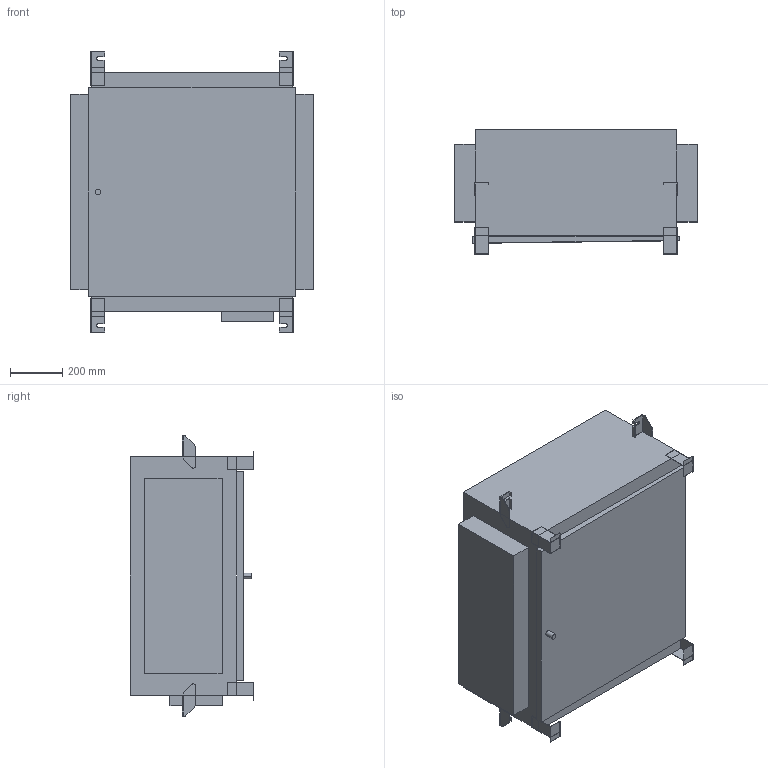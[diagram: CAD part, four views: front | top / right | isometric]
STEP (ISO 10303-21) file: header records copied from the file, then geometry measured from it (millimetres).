
FILE_DESCRIPTION (( 'STEP AP214' ), '1' );
FILE_NAME ('BIS-601モックアップデータ.STEP', '2021-08-30T04:28:05', ( '' ), ( '' ), 'SwSTEP 2.0', 'SolidWorks 2020', '' );
FILE_SCHEMA (( 'AUTOMOTIVE_DESIGN' ));
Length unit declared in the file: millimetre
Products named in the file (1): BIS-601儌僢僋傾僢僾僨乕僞
Bounding box: 929 x 473.8 x 1073.6 mm (x, y, z)
Volume: 336113709.4 mm3; surface area: 4651933 mm2
Topology: 6 solids, 6 shells, 198 faces, 530 edges, 348 vertices
Faces by surface type: plane 168, cylinder 30
Entity records: 6165 total; most frequent: CARTESIAN_POINT 1077, ORIENTED_EDGE 1060, DIRECTION 988, EDGE_CURVE 530, VECTOR 470, LINE 470, VERTEX_POINT 348, AXIS2_PLACEMENT_3D 259
